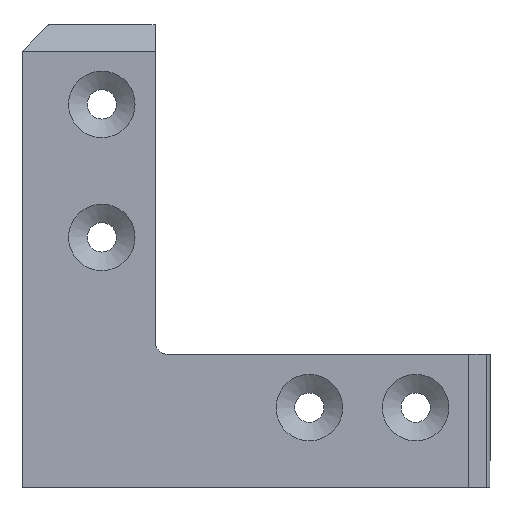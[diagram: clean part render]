
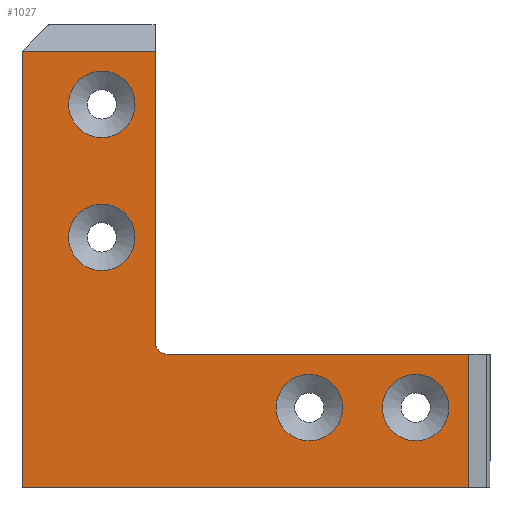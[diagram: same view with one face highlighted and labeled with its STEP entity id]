
A CAD part, front view. The second image highlights one B-rep face of the part: STEP entity #1027.
In plain terms, the highlighted planar face has unit normal (0, -1, 0).
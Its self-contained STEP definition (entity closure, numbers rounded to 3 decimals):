
#43=FACE_BOUND('',#169,.T.);
#44=FACE_BOUND('',#170,.T.);
#45=FACE_BOUND('',#171,.T.);
#46=FACE_BOUND('',#172,.T.);
#96=FACE_OUTER_BOUND('',#168,.T.);
#168=EDGE_LOOP('',(#837,#838,#839,#840,#841,#842,#843));
#169=EDGE_LOOP('',(#844));
#170=EDGE_LOOP('',(#845));
#171=EDGE_LOOP('',(#846));
#172=EDGE_LOOP('',(#847));
#216=LINE('',#1510,#313);
#237=LINE('',#1558,#334);
#259=LINE('',#1637,#356);
#273=LINE('',#1683,#370);
#274=LINE('',#1686,#371);
#275=LINE('',#1687,#372);
#313=VECTOR('',#1195,10.);
#334=VECTOR('',#1234,10.);
#356=VECTOR('',#1312,10.);
#370=VECTOR('',#1364,10.);
#371=VECTOR('',#1367,10.);
#372=VECTOR('',#1368,10.);
#428=CIRCLE('',#1127,6.25);
#429=CIRCLE('',#1129,2.5);
#430=CIRCLE('',#1130,6.25);
#431=CIRCLE('',#1131,6.25);
#432=CIRCLE('',#1132,6.25);
#457=VERTEX_POINT('',#1507);
#458=VERTEX_POINT('',#1509);
#475=VERTEX_POINT('',#1555);
#476=VERTEX_POINT('',#1557);
#504=VERTEX_POINT('',#1635);
#505=VERTEX_POINT('',#1636);
#518=VERTEX_POINT('',#1679);
#519=VERTEX_POINT('',#1685);
#520=VERTEX_POINT('',#1688);
#521=VERTEX_POINT('',#1690);
#522=VERTEX_POINT('',#1692);
#550=EDGE_CURVE('',#457,#458,#216,.T.);
#574=EDGE_CURVE('',#475,#476,#237,.T.);
#613=EDGE_CURVE('',#504,#505,#259,.T.);
#636=EDGE_CURVE('',#518,#518,#428,.T.);
#637=EDGE_CURVE('',#476,#504,#273,.T.);
#638=EDGE_CURVE('',#458,#475,#429,.T.);
#639=EDGE_CURVE('',#519,#457,#274,.T.);
#640=EDGE_CURVE('',#505,#519,#275,.T.);
#641=EDGE_CURVE('',#520,#520,#430,.T.);
#642=EDGE_CURVE('',#521,#521,#431,.T.);
#643=EDGE_CURVE('',#522,#522,#432,.T.);
#837=ORIENTED_EDGE('',*,*,#637,.F.);
#838=ORIENTED_EDGE('',*,*,#574,.F.);
#839=ORIENTED_EDGE('',*,*,#638,.F.);
#840=ORIENTED_EDGE('',*,*,#550,.F.);
#841=ORIENTED_EDGE('',*,*,#639,.F.);
#842=ORIENTED_EDGE('',*,*,#640,.F.);
#843=ORIENTED_EDGE('',*,*,#613,.F.);
#844=ORIENTED_EDGE('',*,*,#641,.F.);
#845=ORIENTED_EDGE('',*,*,#642,.F.);
#846=ORIENTED_EDGE('',*,*,#643,.F.);
#847=ORIENTED_EDGE('',*,*,#636,.F.);
#990=PLANE('',#1128);
#1027=ADVANCED_FACE('',(#96,#43,#44,#45,#46),#990,.F.);
#1127=AXIS2_PLACEMENT_3D('',#1681,#1360,#1361);
#1128=AXIS2_PLACEMENT_3D('',#1682,#1362,#1363);
#1129=AXIS2_PLACEMENT_3D('',#1684,#1365,#1366);
#1130=AXIS2_PLACEMENT_3D('',#1689,#1369,#1370);
#1131=AXIS2_PLACEMENT_3D('',#1691,#1371,#1372);
#1132=AXIS2_PLACEMENT_3D('',#1693,#1373,#1374);
#1195=DIRECTION('',(0.,0.,-1.));
#1234=DIRECTION('',(1.,0.,0.));
#1312=DIRECTION('',(-1.,0.,0.));
#1360=DIRECTION('center_axis',(0.,-1.,0.));
#1361=DIRECTION('ref_axis',(-1.,0.,0.));
#1362=DIRECTION('center_axis',(0.,1.,0.));
#1363=DIRECTION('ref_axis',(0.,0.,1.));
#1364=DIRECTION('',(0.,0.,-1.));
#1365=DIRECTION('center_axis',(0.,-1.,0.));
#1366=DIRECTION('ref_axis',(-0.707,0.,-0.707));
#1367=DIRECTION('',(1.,0.,0.));
#1368=DIRECTION('',(0.,0.,1.));
#1369=DIRECTION('center_axis',(0.,-1.,0.));
#1370=DIRECTION('ref_axis',(-1.,0.,0.));
#1371=DIRECTION('center_axis',(0.,-1.,0.));
#1372=DIRECTION('ref_axis',(-1.,0.,0.));
#1373=DIRECTION('center_axis',(0.,-1.,0.));
#1374=DIRECTION('ref_axis',(-1.,0.,0.));
#1507=CARTESIAN_POINT('',(28.,3.,77.));
#1509=CARTESIAN_POINT('',(28.,3.,22.5));
#1510=CARTESIAN_POINT('',(28.,3.,29.25));
#1555=CARTESIAN_POINT('',(30.5,3.,20.));
#1557=CARTESIAN_POINT('',(87.,3.,20.));
#1558=CARTESIAN_POINT('',(27.491,3.,20.));
#1635=CARTESIAN_POINT('',(87.,3.,-5.));
#1636=CARTESIAN_POINT('',(3.,3.,-5.));
#1637=CARTESIAN_POINT('',(46.491,3.,-5.));
#1679=CARTESIAN_POINT('',(83.25,3.,10.));
#1681=CARTESIAN_POINT('Origin',(77.,3.,10.));
#1682=CARTESIAN_POINT('Origin',(46.982,3.,38.5));
#1683=CARTESIAN_POINT('',(87.,3.,19.25));
#1684=CARTESIAN_POINT('Origin',(30.5,3.,22.5));
#1685=CARTESIAN_POINT('',(3.,3.,77.));
#1686=CARTESIAN_POINT('',(26.991,3.,77.));
#1687=CARTESIAN_POINT('',(3.,3.,37.306));
#1688=CARTESIAN_POINT('',(63.25,3.,10.));
#1689=CARTESIAN_POINT('Origin',(57.,3.,10.));
#1690=CARTESIAN_POINT('',(24.25,3.,42.));
#1691=CARTESIAN_POINT('Origin',(18.,3.,42.));
#1692=CARTESIAN_POINT('',(24.25,3.,67.));
#1693=CARTESIAN_POINT('Origin',(18.,3.,67.));
